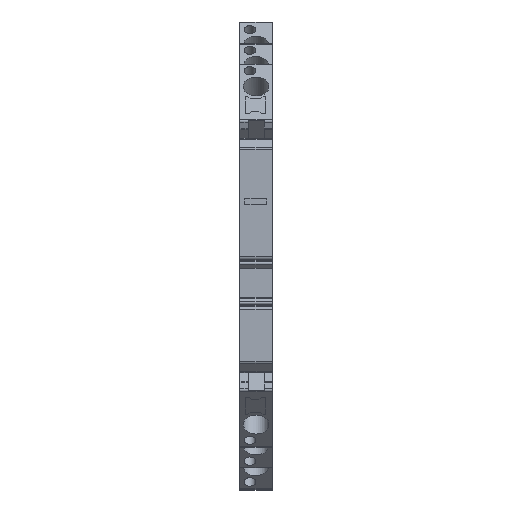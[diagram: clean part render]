
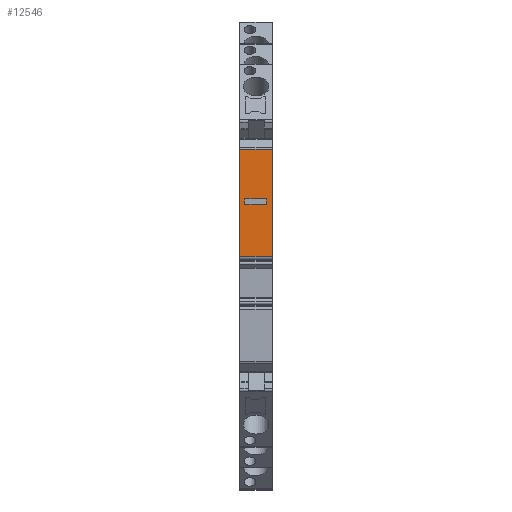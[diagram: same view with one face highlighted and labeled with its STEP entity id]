
A CAD part, top view. The second image highlights one B-rep face of the part: STEP entity #12546.
In plain terms, the highlighted planar face has unit normal (0, 0, 1).
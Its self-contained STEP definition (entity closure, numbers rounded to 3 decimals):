
#4117=CARTESIAN_POINT('',(-72.825,2.845,40.393));
#4118=VERTEX_POINT('',#4117);
#4126=CARTESIAN_POINT('',(-66.675,2.845,40.393));
#4127=VERTEX_POINT('',#4126);
#4128=CARTESIAN_POINT('',(-72.825,2.845,40.393));
#4129=DIRECTION('',(1.,0.,0.));
#4130=VECTOR('',#4129,6.15);
#4131=LINE('',#4128,#4130);
#4132=EDGE_CURVE('',#4118,#4127,#4131,.T.);
#4157=CARTESIAN_POINT('',(-72.825,-17.158,40.393));
#4158=VERTEX_POINT('',#4157);
#4176=CARTESIAN_POINT('',(-66.675,-17.158,40.393));
#4177=VERTEX_POINT('',#4176);
#4185=CARTESIAN_POINT('',(-72.825,-17.158,40.393));
#4186=DIRECTION('',(1.,0.,0.));
#4187=VECTOR('',#4186,6.15);
#4188=LINE('',#4185,#4187);
#4189=EDGE_CURVE('',#4158,#4177,#4188,.T.);
#7442=CARTESIAN_POINT('',(-72.825,2.845,40.393));
#7443=DIRECTION('',(0.,-1.,0.));
#7444=VECTOR('',#7443,20.004);
#7445=LINE('',#7442,#7444);
#7446=EDGE_CURVE('',#4118,#4158,#7445,.T.);
#7682=CARTESIAN_POINT('',(-66.675,2.845,40.393));
#7683=DIRECTION('',(0.,-1.,0.));
#7684=VECTOR('',#7683,20.004);
#7685=LINE('',#7682,#7684);
#7686=EDGE_CURVE('',#4127,#4177,#7685,.T.);
#12501=CARTESIAN_POINT('',(-69.75,-7.156,40.393));
#12502=DIRECTION('',(0.,-1.,0.));
#12503=DIRECTION('',(-0.,0.,1.));
#12504=AXIS2_PLACEMENT_3D('',#12501,#12503,#12502);
#12505=PLANE('',#12504);
#12506=ORIENTED_EDGE('',*,*,#7446,.T.);
#12507=ORIENTED_EDGE('',*,*,#4189,.T.);
#12508=ORIENTED_EDGE('',*,*,#7686,.F.);
#12509=ORIENTED_EDGE('',*,*,#4132,.F.);
#12510=EDGE_LOOP('',(#12506,#12507,#12508,#12509));
#12511=FACE_OUTER_BOUND('',#12510,.T.);
#12512=CARTESIAN_POINT('',(-67.825,-7.405,40.393));
#12513=VERTEX_POINT('',#12512);
#12514=CARTESIAN_POINT('',(-67.825,-6.405,40.393));
#12515=VERTEX_POINT('',#12514);
#12516=CARTESIAN_POINT('',(-67.825,-7.405,40.393));
#12517=DIRECTION('',(0.,1.,0.));
#12518=VECTOR('',#12517,1.);
#12519=LINE('',#12516,#12518);
#12520=EDGE_CURVE('',#12513,#12515,#12519,.T.);
#12521=ORIENTED_EDGE('E16317',*,*,#12520,.F.);
#12522=CARTESIAN_POINT('',(-71.825,-7.405,40.393));
#12523=VERTEX_POINT('',#12522);
#12524=CARTESIAN_POINT('',(-71.825,-7.405,40.393));
#12525=DIRECTION('',(1.,0.,0.));
#12526=VECTOR('',#12525,4.);
#12527=LINE('',#12524,#12526);
#12528=EDGE_CURVE('',#12523,#12513,#12527,.T.);
#12529=ORIENTED_EDGE('E16316',*,*,#12528,.F.);
#12530=CARTESIAN_POINT('',(-71.825,-6.405,40.393));
#12531=VERTEX_POINT('',#12530);
#12532=CARTESIAN_POINT('',(-71.825,-6.405,40.393));
#12533=DIRECTION('',(0.,-1.,0.));
#12534=VECTOR('',#12533,1.);
#12535=LINE('',#12532,#12534);
#12536=EDGE_CURVE('',#12531,#12523,#12535,.T.);
#12537=ORIENTED_EDGE('E16319',*,*,#12536,.F.);
#12538=CARTESIAN_POINT('',(-67.825,-6.405,40.393));
#12539=DIRECTION('',(-1.,0.,0.));
#12540=VECTOR('',#12539,4.);
#12541=LINE('',#12538,#12540);
#12542=EDGE_CURVE('',#12515,#12531,#12541,.T.);
#12543=ORIENTED_EDGE('E16318',*,*,#12542,.F.);
#12544=EDGE_LOOP('',(#12521,#12529,#12537,#12543));
#12545=FACE_BOUND('',#12544,.T.);
#12546=ADVANCED_FACE('F3253',(#12511,#12545),#12505,.T.);
